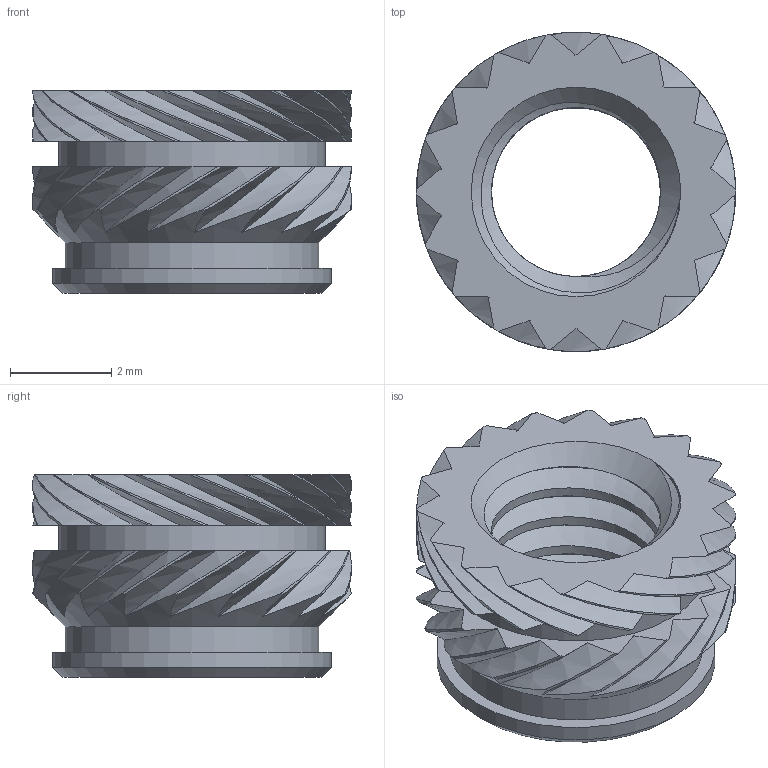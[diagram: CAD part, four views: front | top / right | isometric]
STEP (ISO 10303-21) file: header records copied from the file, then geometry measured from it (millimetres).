
FILE_DESCRIPTION(/* description */ (''),/* implementation_level */ '2;1');
FILE_NAME(/* name */ 'C:/Users/stefa/Desktop/Sync/Podcast/Produkte/Inserts/CAD/M4_Short.step',/* time_stamp */ '2021-08-31T16:43:34+02:00',/* author */ (''),/* organization */ (''),/* preprocessor_version */ 'ST-DEVELOPER v18.1',/* originating_system */ 'Autodesk Translation Framework v10.10.0.1391',/* authorisation */ '');
FILE_SCHEMA (('AUTOMOTIVE_DESIGN { 1 0 10303 214 3 1 1 }'));
Length unit declared in the file: millimetre
Products named in the file (1): Insert_M4_Short
Bounding box: 6.3 x 6.3 x 4 mm (x, y, z)
Volume: 54.9 mm3; surface area: 234.1 mm2
Topology: 1 solids, 12 shells, 325 faces, 893 edges, 595 vertices
Faces by surface type: bspline 175, plane 94, cylinder 52, cone 4
Full cylindrical faces by diameter (mm): 3.332 x3, 4.109 x1, 5 x1, 5.25 x1, 5.5 x1
Entity records: 13908 total; most frequent: CARTESIAN_POINT 7014, ORIENTED_EDGE 1786, EDGE_CURVE 893, DIRECTION 796, VERTEX_POINT 595, B_SPLINE_CURVE_WITH_KNOTS 486, EDGE_LOOP 332, FACE_OUTER_BOUND 325
